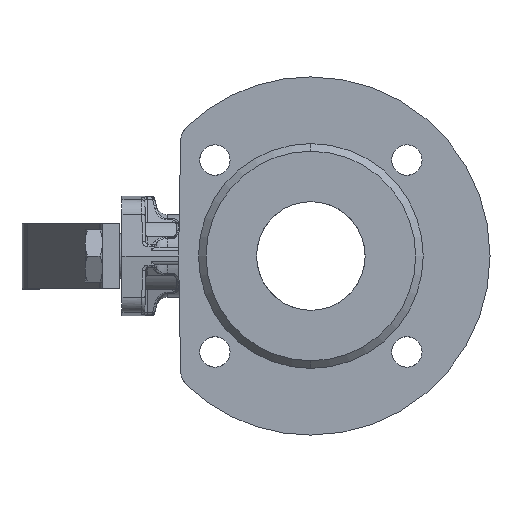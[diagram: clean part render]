
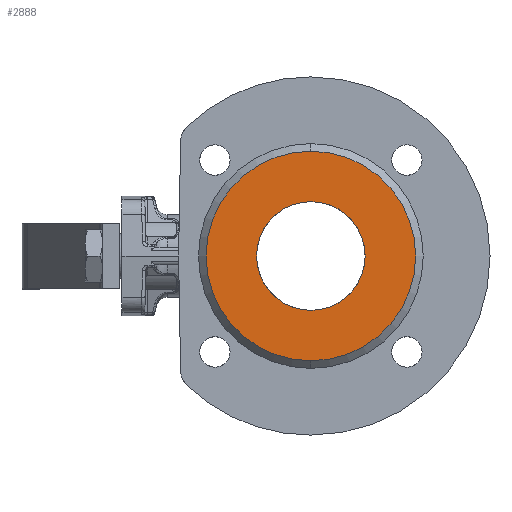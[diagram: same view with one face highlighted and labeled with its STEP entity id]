
A CAD part, left-side view. The second image highlights one B-rep face of the part: STEP entity #2888.
In plain terms, the highlighted planar face has unit normal (-1, 0, 0).
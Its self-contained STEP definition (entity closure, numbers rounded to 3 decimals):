
#2 = VERTEX_POINT ( 'NONE', #14902 ) ;
#14 = VERTEX_POINT ( 'NONE', #14968 ) ;
#22 = EDGE_CURVE ( 'NONE', #19106, #2, #15086, .T. ) ;
#38 = VERTEX_POINT ( 'NONE', #15100 ) ;
#60 = EDGE_CURVE ( 'NONE', #38, #14, #15245, .T. ) ;
#2322 = EDGE_LOOP ( 'NONE', ( #4007, #3500 ) ) ;
#2561 = EDGE_CURVE ( 'NONE', #2, #19106, #7186, .T. ) ;
#2888 = ADVANCED_FACE ( 'NONE', ( #7179, #7178 ), #7180, .F. ) ;
#3500 = ORIENTED_EDGE ( 'NONE', *, *, #22, .F. ) ;
#3727 = ORIENTED_EDGE ( 'NONE', *, *, #4026, .T. ) ;
#3886 = ORIENTED_EDGE ( 'NONE', *, *, #60, .T. ) ;
#3992 = EDGE_LOOP ( 'NONE', ( #3727, #3886 ) ) ;
#4007 = ORIENTED_EDGE ( 'NONE', *, *, #2561, .F. ) ;
#4026 = EDGE_CURVE ( 'NONE', #14, #38, #7272, .T. ) ;
#7170 = DIRECTION ( 'NONE',  ( 0., 0., -1. ) ) ;
#7171 = DIRECTION ( 'NONE',  ( 1., 0., 0. ) ) ;
#7173 = CARTESIAN_POINT ( 'NONE',  ( -39.25, 25., 0. ) ) ;
#7175 = AXIS2_PLACEMENT_3D ( 'NONE', #7173, #7171, #7170 ) ;
#7178 = FACE_OUTER_BOUND ( 'NONE', #3992, .T. ) ;
#7179 = FACE_BOUND ( 'NONE', #2322, .T. ) ;
#7180 = PLANE ( 'NONE',  #7175 ) ;
#7182 = DIRECTION ( 'NONE',  ( 0., 0., 1. ) ) ;
#7183 = DIRECTION ( 'NONE',  ( -1., 0., 0. ) ) ;
#7184 = CARTESIAN_POINT ( 'NONE',  ( -39.25, 0., 0. ) ) ;
#7185 = AXIS2_PLACEMENT_3D ( 'NONE', #7184, #7183, #7182 ) ;
#7186 = CIRCLE ( 'NONE', #7185, 25. ) ;
#7263 = DIRECTION ( 'NONE',  ( 0., 0., 1. ) ) ;
#7264 = DIRECTION ( 'NONE',  ( -1., 0., 0. ) ) ;
#7265 = CARTESIAN_POINT ( 'NONE',  ( -39.25, 0., 0. ) ) ;
#7266 = AXIS2_PLACEMENT_3D ( 'NONE', #7265, #7264, #7263 ) ;
#7272 = CIRCLE ( 'NONE', #7266, 48.25 ) ;
#14902 = CARTESIAN_POINT ( 'NONE',  ( -39.25, 0., 25. ) ) ;
#14968 = CARTESIAN_POINT ( 'NONE',  ( -39.25, 0., -48.25 ) ) ;
#15082 = DIRECTION ( 'NONE',  ( 0., 0., 1. ) ) ;
#15083 = DIRECTION ( 'NONE',  ( -1., 0., 0. ) ) ;
#15084 = CARTESIAN_POINT ( 'NONE',  ( -39.25, 0., 0. ) ) ;
#15085 = AXIS2_PLACEMENT_3D ( 'NONE', #15084, #15083, #15082 ) ;
#15086 = CIRCLE ( 'NONE', #15085, 25. ) ;
#15100 = CARTESIAN_POINT ( 'NONE',  ( -39.25, 0., 48.25 ) ) ;
#15224 = CARTESIAN_POINT ( 'NONE',  ( -39.25, 0., 0. ) ) ;
#15244 = AXIS2_PLACEMENT_3D ( 'NONE', #15224, #15323, #15322 ) ;
#15245 = CIRCLE ( 'NONE', #15244, 48.25 ) ;
#15322 = DIRECTION ( 'NONE',  ( 0., 0., 1. ) ) ;
#15323 = DIRECTION ( 'NONE',  ( -1., 0., 0. ) ) ;
#18590 = CARTESIAN_POINT ( 'NONE',  ( -39.25, 0., -25. ) ) ;
#19106 = VERTEX_POINT ( 'NONE', #18590 ) ;
